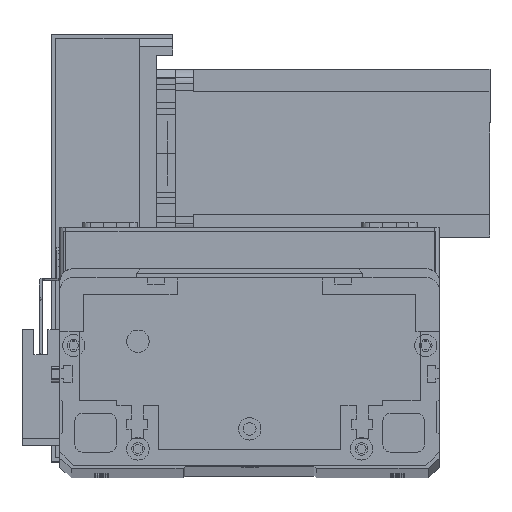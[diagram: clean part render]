
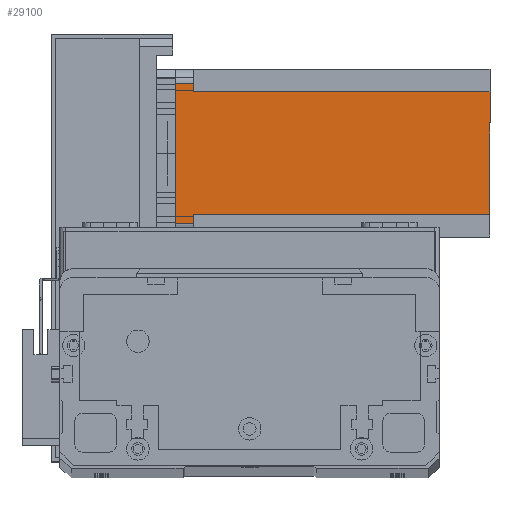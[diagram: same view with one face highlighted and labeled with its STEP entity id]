
A CAD part, top view. The second image highlights one B-rep face of the part: STEP entity #29100.
In plain terms, the highlighted planar face has unit normal (0, 0, 1) as drawn and (0, -1, 0) by its records, which use the part's own axes.
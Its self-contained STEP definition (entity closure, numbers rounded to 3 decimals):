
#356 = EDGE_LOOP ( 'NONE', ( #6569, #7184, #7615, #10545, #29446, #21355, #12628, #16032 ) ) ;
#404 = DIRECTION ( 'NONE',  ( 0., 0., -1. ) ) ;
#836 = CARTESIAN_POINT ( 'NONE',  ( 0., 0., -112.5 ) ) ;
#889 = CARTESIAN_POINT ( 'NONE',  ( 55., 0., -6.5 ) ) ;
#1436 = EDGE_CURVE ( 'NONE', #16695, #18230, #10030, .T. ) ;
#1639 = FACE_OUTER_BOUND ( 'NONE', #356, .T. ) ;
#2150 = VERTEX_POINT ( 'NONE', #12073 ) ;
#2384 = LINE ( 'NONE', #9460, #27084 ) ;
#3603 = VECTOR ( 'NONE', #22662, 1000. ) ;
#3839 = VECTOR ( 'NONE', #22418, 1000. ) ;
#3938 = DIRECTION ( 'NONE',  ( 0., 0., 1. ) ) ;
#3995 = EDGE_CURVE ( 'NONE', #16577, #9900, #5316, .T. ) ;
#4677 = CARTESIAN_POINT ( 'NONE',  ( 52., 0., -6.5 ) ) ;
#5316 = LINE ( 'NONE', #22494, #3839 ) ;
#5912 = CARTESIAN_POINT ( 'NONE',  ( 52., 0., -112.5 ) ) ;
#6569 = ORIENTED_EDGE ( 'NONE', *, *, #19004, .T. ) ;
#6635 = CARTESIAN_POINT ( 'NONE',  ( 5., 0., -6.5 ) ) ;
#7184 = ORIENTED_EDGE ( 'NONE', *, *, #27306, .T. ) ;
#7615 = ORIENTED_EDGE ( 'NONE', *, *, #3995, .F. ) ;
#7983 = PLANE ( 'NONE',  #29407 ) ;
#9460 = CARTESIAN_POINT ( 'NONE',  ( 0., 0., -112.5 ) ) ;
#9829 = CARTESIAN_POINT ( 'NONE',  ( 5., 0., -112.5 ) ) ;
#9900 = VERTEX_POINT ( 'NONE', #15711 ) ;
#9912 = LINE ( 'NONE', #15573, #3603 ) ;
#10030 = LINE ( 'NONE', #13397, #15414 ) ;
#10545 = ORIENTED_EDGE ( 'NONE', *, *, #21136, .T. ) ;
#11669 = LINE ( 'NONE', #13864, #29264 ) ;
#12070 = EDGE_CURVE ( 'NONE', #16695, #2150, #2384, .T. ) ;
#12073 = CARTESIAN_POINT ( 'NONE',  ( 52., 0., -112.5 ) ) ;
#12293 = LINE ( 'NONE', #4677, #17643 ) ;
#12628 = ORIENTED_EDGE ( 'NONE', *, *, #12070, .T. ) ;
#12669 = DIRECTION ( 'NONE',  ( 0., -1., 0. ) ) ;
#13397 = CARTESIAN_POINT ( 'NONE',  ( 8., 0., -112.5 ) ) ;
#13864 = CARTESIAN_POINT ( 'NONE',  ( 8., 0., -6.5 ) ) ;
#14190 = EDGE_CURVE ( 'NONE', #27518, #2150, #17566, .T. ) ;
#15414 = VECTOR ( 'NONE', #3938, 1000. ) ;
#15573 = CARTESIAN_POINT ( 'NONE',  ( 55., 0., -112.5 ) ) ;
#15690 = VERTEX_POINT ( 'NONE', #889 ) ;
#15711 = CARTESIAN_POINT ( 'NONE',  ( 55., 0., 0. ) ) ;
#16032 = ORIENTED_EDGE ( 'NONE', *, *, #14190, .F. ) ;
#16441 = VERTEX_POINT ( 'NONE', #6635 ) ;
#16577 = VERTEX_POINT ( 'NONE', #23250 ) ;
#16695 = VERTEX_POINT ( 'NONE', #19060 ) ;
#17566 = LINE ( 'NONE', #5912, #29085 ) ;
#17643 = VECTOR ( 'NONE', #18590, 1000. ) ;
#18230 = VERTEX_POINT ( 'NONE', #27196 ) ;
#18446 = DIRECTION ( 'NONE',  ( -1., 0., 0. ) ) ;
#18590 = DIRECTION ( 'NONE',  ( 1., 0., 0. ) ) ;
#18609 = VECTOR ( 'NONE', #404, 1000. ) ;
#19004 = EDGE_CURVE ( 'NONE', #27518, #15690, #12293, .T. ) ;
#19060 = CARTESIAN_POINT ( 'NONE',  ( 8., 0., -112.5 ) ) ;
#19787 = DIRECTION ( 'NONE',  ( 0., 0., -1. ) ) ;
#20987 = CARTESIAN_POINT ( 'NONE',  ( 52., 0., -6.5 ) ) ;
#21136 = EDGE_CURVE ( 'NONE', #16577, #16441, #24784, .T. ) ;
#21355 = ORIENTED_EDGE ( 'NONE', *, *, #1436, .F. ) ;
#22418 = DIRECTION ( 'NONE',  ( 1., 0., 0. ) ) ;
#22494 = CARTESIAN_POINT ( 'NONE',  ( 0., 0., 0. ) ) ;
#22662 = DIRECTION ( 'NONE',  ( 0., 0., 1. ) ) ;
#23250 = CARTESIAN_POINT ( 'NONE',  ( 5., 0., 0. ) ) ;
#24784 = LINE ( 'NONE', #9829, #18609 ) ;
#25567 = DIRECTION ( 'NONE',  ( 1., 0., 0. ) ) ;
#27084 = VECTOR ( 'NONE', #25567, 1000. ) ;
#27196 = CARTESIAN_POINT ( 'NONE',  ( 8., 0., -6.5 ) ) ;
#27306 = EDGE_CURVE ( 'NONE', #15690, #9900, #9912, .T. ) ;
#27518 = VERTEX_POINT ( 'NONE', #20987 ) ;
#27861 = EDGE_CURVE ( 'NONE', #18230, #16441, #11669, .T. ) ;
#28714 = DIRECTION ( 'NONE',  ( 0., 0., -1. ) ) ;
#29085 = VECTOR ( 'NONE', #19787, 1000. ) ;
#29100 = ADVANCED_FACE ( 'NONE', ( #1639 ), #7983, .T. ) ;
#29264 = VECTOR ( 'NONE', #18446, 1000. ) ;
#29407 = AXIS2_PLACEMENT_3D ( 'NONE', #836, #12669, #28714 ) ;
#29446 = ORIENTED_EDGE ( 'NONE', *, *, #27861, .F. ) ;
